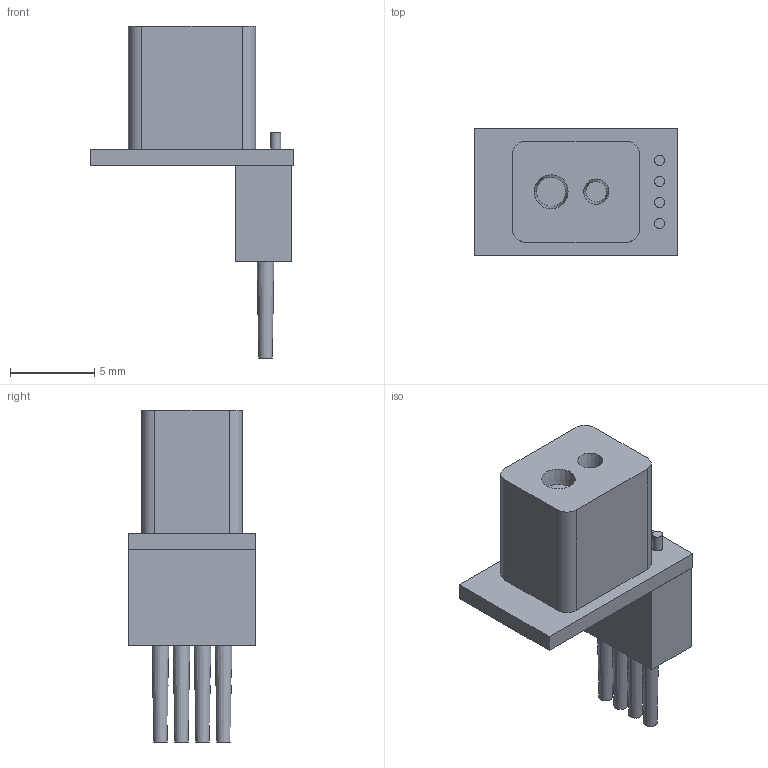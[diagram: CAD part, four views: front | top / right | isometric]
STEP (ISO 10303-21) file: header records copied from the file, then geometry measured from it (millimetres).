
FILE_DESCRIPTION(/* description */ (''),/* implementation_level */ '2;1');
FILE_NAME(/* name */ 'C:\Users\User\Google Drive\3D\Portescap-Sumo-V6\JSL400-Laser-Sensor.stp',/* time_stamp */ '2026-06-06T16:16:41+03:00',/* author */ ('User'),/* organization */ (''),/* preprocessor_version */ 'ST-DEVELOPER v16.5',/* originating_system */ 'Autodesk Inventor 2017',/* authorisation */ '');
FILE_SCHEMA (('AUTOMOTIVE_DESIGN { 1 0 10303 214 3 1 1 }'));
Length unit declared in the file: millimetre
Products named in the file (1): Lazer-Sensor
Bounding box: 12.05 x 7.55 x 19.7 mm (x, y, z)
Volume: 571.1 mm3; surface area: 635.5 mm2
Topology: 1 solids, 1 shells, 204 faces, 525 edges, 350 vertices
Faces by surface type: plane 102, bspline 88, cylinder 8, cone 6
Full cylindrical faces by diameter (mm): 0.6 x4
Entity records: 6708 total; most frequent: CARTESIAN_POINT 2214, ORIENTED_EDGE 1030, DIRECTION 601, EDGE_CURVE 515, VERTEX_POINT 350, LINE 311, VECTOR 311, EDGE_LOOP 241
